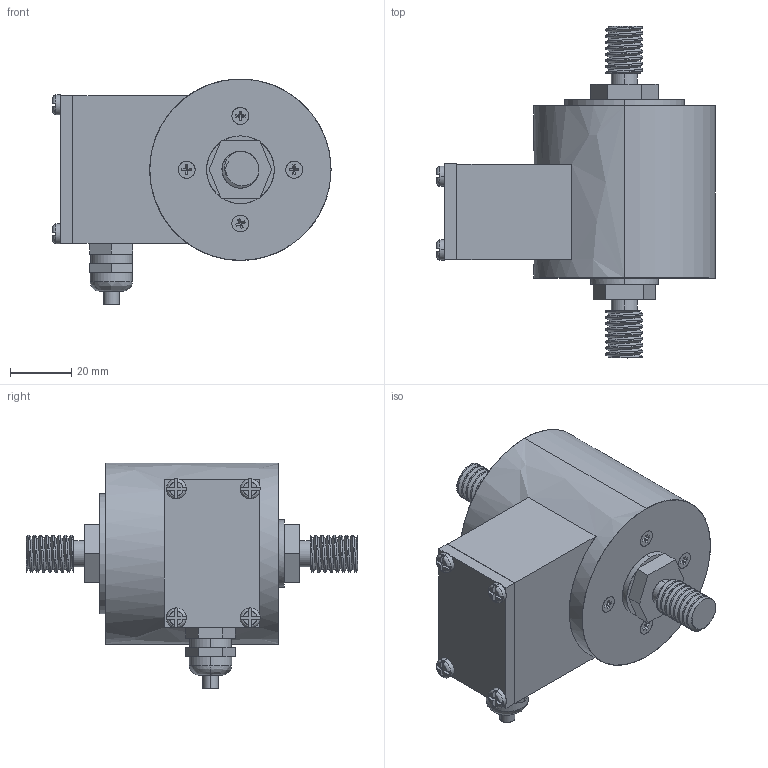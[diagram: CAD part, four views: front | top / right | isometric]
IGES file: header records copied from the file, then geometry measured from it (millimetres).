
Start section: SolidWorks IGES file using analytic representation for surfaces
Global section: file name: O:\16-Entwicklung\Projekte\03_Kraftsensoren\0222_KT1101\01_Mechanik & Gehäuse\01_Solid Works\01_Outline 3D files\Volumenmodell\KT1101_K_2KN.IGS; native system: SolidWorks 2012; preprocessor: SolidWorks 2012; author: AndreB; date: 140423.134347; units: metre
Bounding box: 90.5 x 108 x 73.5 mm (x, y, z)
Surface area: 25879.9 mm2 (no closed solid volume)
Topology: 0 solids, 0 shells, 259 faces, 4331 edges, 4331 vertices
Faces by surface type: bspline 197, revolution 62
